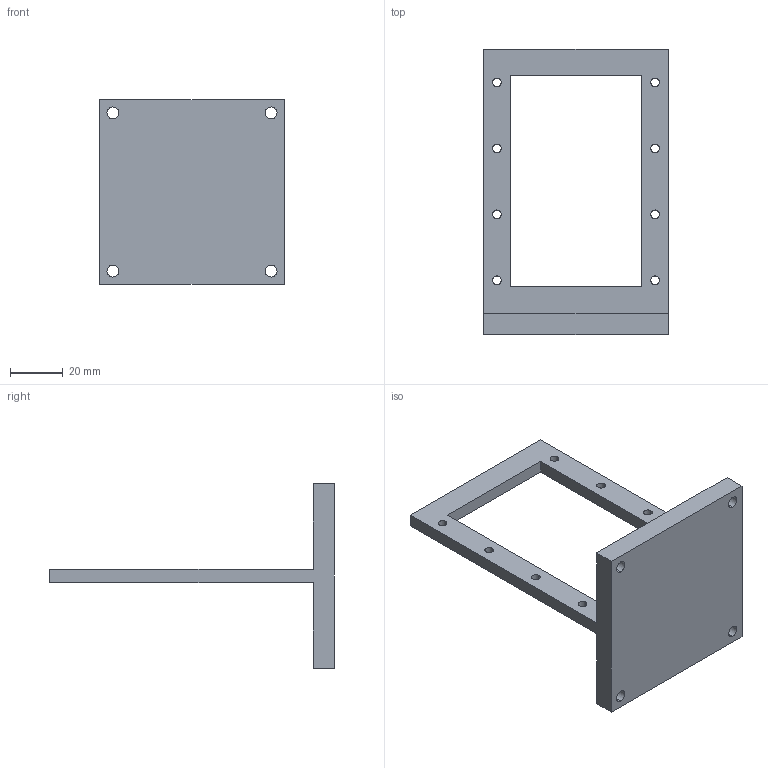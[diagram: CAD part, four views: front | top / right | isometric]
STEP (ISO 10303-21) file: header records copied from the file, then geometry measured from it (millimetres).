
FILE_DESCRIPTION (( 'STEP AP203' ), '1' );
FILE_NAME ('蛌諉啣.STEP', '2026-07-21T13:17:42', ( '' ), ( '' ), 'SwSTEP 2.0', 'SolidWorks 2023', '' );
FILE_SCHEMA (( 'CONFIG_CONTROL_DESIGN' ));
Length unit declared in the file: millimetre
Products named in the file (1): 转接板
Bounding box: 70 x 108 x 70 mm (x, y, z)
Volume: 52716.7 mm3; surface area: 21145.3 mm2
Topology: 1 solids, 1 shells, 50 faces, 132 edges, 88 vertices
Faces by surface type: cylinder 32, plane 18
Entity records: 1709 total; most frequent: DIRECTION 298, CARTESIAN_POINT 271, ORIENTED_EDGE 264, EDGE_CURVE 132, AXIS2_PLACEMENT_3D 115, VERTEX_POINT 88, EDGE_LOOP 80, LINE 68
